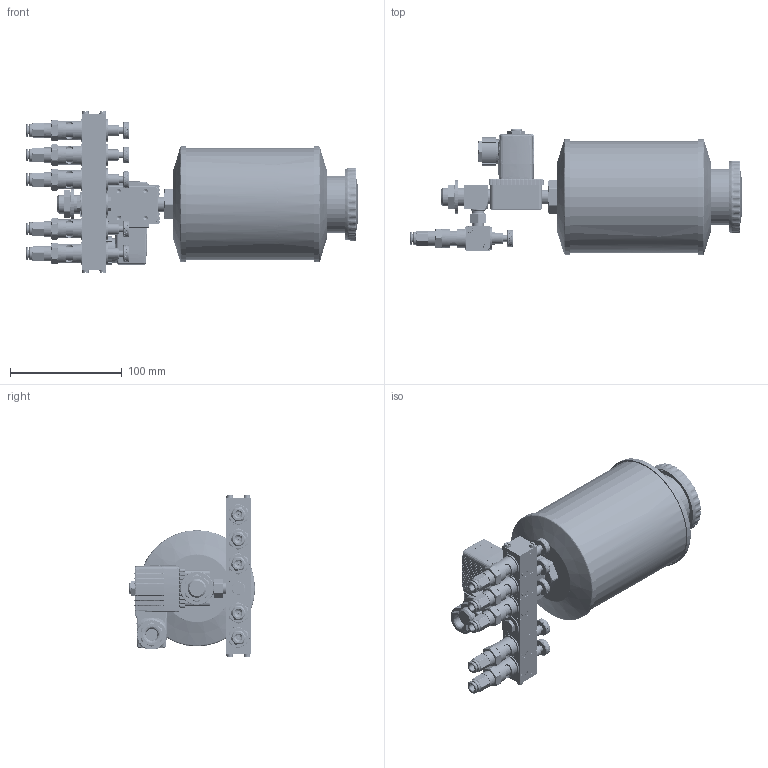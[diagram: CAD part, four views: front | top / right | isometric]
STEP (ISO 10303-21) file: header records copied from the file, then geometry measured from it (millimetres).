
FILE_DESCRIPTION (( 'STEP AP214' ), '1' );
FILE_NAME ('TRO_03_01_05_XXX.STEP', '2025-11-24T11:20:28', ( '' ), ( '' ), 'SwSTEP 2.0', 'SolidWorks 2022', '' );
FILE_SCHEMA (( 'AUTOMOTIVE_DESIGN' ));
Length unit declared in the file: millimetre
Products named in the file (20): TRO_Stutzen.SLDPRT; TRO_2er; TRO_2er_mittel; OR 7.2X1.9_1; TRO_Behaelter_01; TRO_2er_mittel_Mit_Verschr.SLDPRT; TRO_Endplatte; TRO_Magnetventil_ohne; R200107-N1; DR6-C_HDX_25.07.16; TRO_Magnetventil_aktuell; DR6_NEU; 9911 0701 0601_6_1_8_HD; TRO_Magnetventil_Stecker; RIVOLUZIONE_0; OR 7.66X1.78; TRO_1er_Mit_Verschr.SLDPRT; TRO_03_01_05_XXX
Assembly tree (20 placements, depth 4):
  TRO_2er_mittel
  OR 7.2X1.9_1
  R200107-N1
  DR6_NEU
  TRO_03_01_05_XXX
    TRO_Behaelter_01
    TRO_2er_mittel_Mit_Verschr.SLDPRT
      TRO_Stutzen.SLDPRT
        TRO_2er_mittel
      TRO_2er
      9911 0701 0601_6_1_8_HD  x2
        RIVOLUZIONE_0
        OR 7.66X1.78
        DR6-C_HDX_25.07.16
    TRO_1er_Mit_Verschr.SLDPRT  x3
      TRO_2er
      9911 0701 0601_6_1_8_HD
        RIVOLUZIONE_0
        OR 7.66X1.78
        DR6-C_HDX_25.07.16
    TRO_Magnetventil_aktuell
      TRO_Magnetventil_ohne
      TRO_Magnetventil_Stecker
    TRO_Endplatte  x2
Bounding box: 296.51 x 112.7 x 144.8 mm (x, y, z)
Volume: 408217 mm3; surface area: 253395.6 mm2
Topology: 33 solids, 33 shells, 7615 faces, 19746 edges, 12315 vertices
Faces by surface type: bspline 2856, plane 2804, cylinder 1251, cone 701, torus 3
Full cylindrical faces by diameter (mm): 1.5 x5, 2 x5, 3.5 x9, 3.8 x5, 4.2 x5, 4.5 x5, 5.5 x4, 5.9 x10, 6 x2, 6.2 x5, 6.25 x1, 6.3 x5, 6.75 x1, 7 x6, 7.2 x5, 7.4 x1, 8 x2, 8.3 x5, 8.4 x1, 8.5 x1, 8.6 x8, 8.8 x1, 9 x6, 9.2 x1, 9.5 x5, 9.728 x5, 9.8 x1, 9.9 x5, 10 x14, 10.1 x1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
Entity records: 315522 total; most frequent: CARTESIAN_POINT 172986, ORIENTED_EDGE 32244, DIRECTION 18608, EDGE_CURVE 16122, VERTEX_POINT 10235, B_SPLINE_CURVE_WITH_KNOTS 7572, AXIS2_PLACEMENT_3D 6992, EDGE_LOOP 6979
